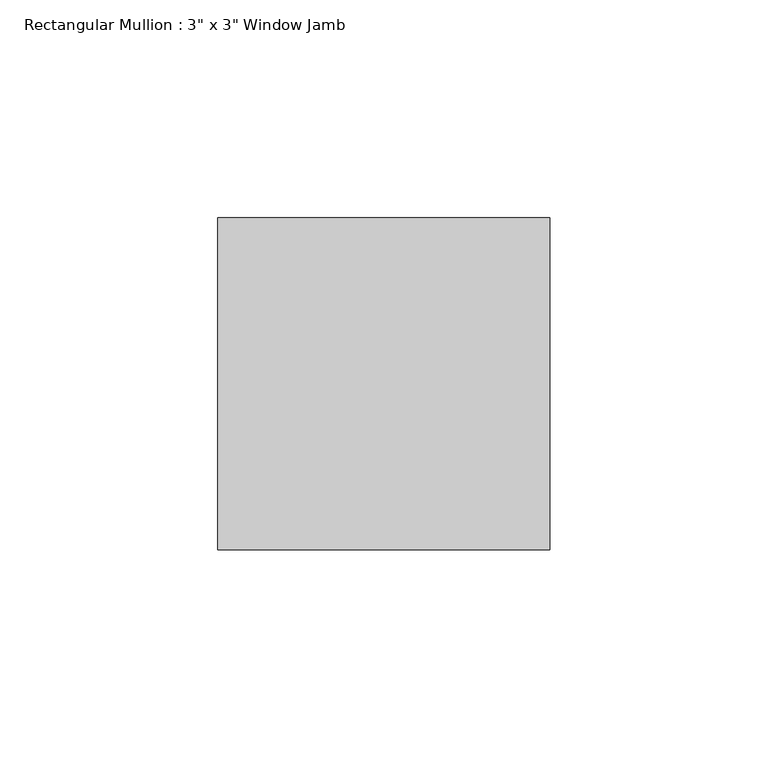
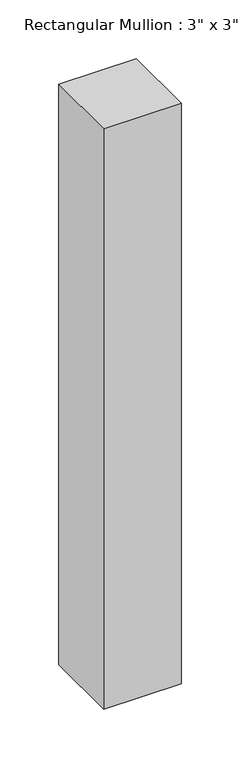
"""IFC4 building model written with IfcOpenShell, lengths in millimetres: member geometry."""

from ifc_helpers import new_model, si_unit, frame, origin, place, context, project, spatial, polyline, outline, extrude, source, transform, mapped, element, save


def member_550668b7(model_context):
    return source(origin(), model_context, "Body", "SweptSolid", [
        extrude(outline(polyline([(0.0, 50.8), (0.0, -25.4), (-76.2, -25.4), (-76.2, 50.8), (0.0, 50.8)])), frame((0.0, 0.0, -602.7424908), z_axis=(0.0, 0.0, 1.0), x_axis=(1.0, 0.0, 0.0)), (0.0, 0.0, 1.0), 602.7424908),
    ])


if __name__ == "__main__":
    model = new_model("IFC4")
    model_context = context("Model", 3, world=origin())
    ifc_project = project(units=[si_unit("LENGTHUNIT", "METRE", prefix="MILLI")], contexts=[model_context])
    site = spatial("IfcSite", under=ifc_project)
    building = spatial("IfcBuilding", under=site)
    placement = place(None, origin())
    member_shape = member_550668b7(model_context)
    element("IfcMember", 1, ObjectType="Rectangular Mullion : 3\" x 3\" Window Jamb", at=placement, inside=building, context=model_context, shape_type="MappedRepresentation", body=[
        mapped(member_shape, transform((0.0, 0.0, 0.0), x_axis=(1.0, 0.0, 0.0), y_axis=(0.0, 1.0, 0.0), z_axis=(0.0, 0.0, 1.0))),
    ])
    save(model, "model.ifc")
